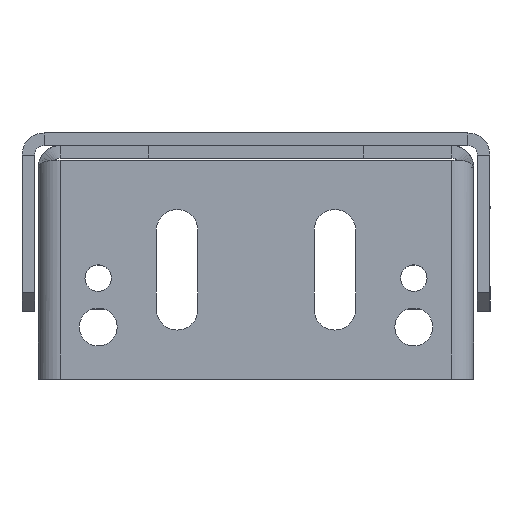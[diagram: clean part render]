
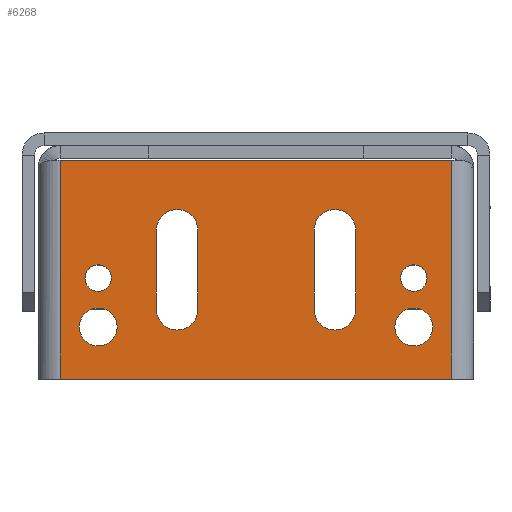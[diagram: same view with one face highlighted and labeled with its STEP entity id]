
A CAD part, left-side view. The second image highlights one B-rep face of the part: STEP entity #6268.
In plain terms, the highlighted planar face has unit normal (-1, 0, 0) as drawn and (0, 0, 1) by its records, which use the part's own axes.
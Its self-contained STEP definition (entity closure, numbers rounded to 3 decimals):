
#6268=ADVANCED_FACE('',(#12166,#12168,#12170,#12172,#12174,#12176,#12178),#12180,
.F.);
#12166=FACE_BOUND('',#12167,.T.);
#12167=EDGE_LOOP('',(#16509,#16510,#16511,#16512));
#12168=FACE_BOUND('',#12169,.T.);
#12169=EDGE_LOOP('',(#16513,#16514,#16515,#16516));
#12170=FACE_BOUND('',#12171,.T.);
#12171=EDGE_LOOP('',(#16517,#16518,#16519,#16520));
#12172=FACE_BOUND('',#12173,.T.);
#12173=EDGE_LOOP('',(#16521));
#12174=FACE_BOUND('',#12175,.T.);
#12175=EDGE_LOOP('',(#16522));
#12176=FACE_BOUND('',#12177,.T.);
#12177=EDGE_LOOP('',(#16523));
#12178=FACE_BOUND('',#12179,.T.);
#12179=EDGE_LOOP('',(#16524));
#12180=PLANE('',#12181);
#12181=AXIS2_PLACEMENT_3D('',#12182,#12183,#12184);
#12182=CARTESIAN_POINT('',(18.5,34.5,0.));
#12183=DIRECTION('',(0.,0.,-1.));
#12184=DIRECTION('',(-1.,0.,0.));
#16509=ORIENTED_EDGE('',*,*,#18601,.F.);
#16510=ORIENTED_EDGE('',*,*,#18602,.T.);
#16511=ORIENTED_EDGE('',*,*,#18603,.T.);
#16512=ORIENTED_EDGE('',*,*,#18604,.F.);
#16513=ORIENTED_EDGE('',*,*,#18605,.F.);
#16514=ORIENTED_EDGE('',*,*,#18606,.F.);
#16515=ORIENTED_EDGE('',*,*,#18607,.F.);
#16516=ORIENTED_EDGE('',*,*,#18506,.F.);
#16517=ORIENTED_EDGE('',*,*,#18608,.F.);
#16518=ORIENTED_EDGE('',*,*,#18609,.F.);
#16519=ORIENTED_EDGE('',*,*,#18610,.F.);
#16520=ORIENTED_EDGE('',*,*,#18510,.F.);
#16521=ORIENTED_EDGE('',*,*,#18545,.F.);
#16522=ORIENTED_EDGE('',*,*,#18547,.F.);
#16523=ORIENTED_EDGE('',*,*,#18549,.F.);
#16524=ORIENTED_EDGE('',*,*,#18551,.F.);
#18506=EDGE_CURVE('',#21754,#21756,#21757,.T.);
#18510=EDGE_CURVE('',#21762,#21764,#21765,.T.);
#18545=EDGE_CURVE('',#21829,#21829,#21830,.T.);
#18547=EDGE_CURVE('',#21833,#21833,#21834,.T.);
#18549=EDGE_CURVE('',#21837,#21837,#21838,.T.);
#18551=EDGE_CURVE('',#21841,#21841,#21842,.T.);
#18601=EDGE_CURVE('',#21931,#21932,#21933,.T.);
#18602=EDGE_CURVE('',#21931,#21934,#21935,.T.);
#18603=EDGE_CURVE('',#21934,#21936,#21937,.T.);
#18604=EDGE_CURVE('',#21932,#21936,#21938,.T.);
#18605=EDGE_CURVE('',#21939,#21754,#21940,.T.);
#18606=EDGE_CURVE('',#21941,#21939,#21942,.T.);
#18607=EDGE_CURVE('',#21756,#21941,#21943,.T.);
#18608=EDGE_CURVE('',#21944,#21762,#21945,.T.);
#18609=EDGE_CURVE('',#21946,#21944,#21947,.T.);
#18610=EDGE_CURVE('',#21764,#21946,#21948,.T.);
#21754=VERTEX_POINT('',#29466);
#21756=VERTEX_POINT('',#29470);
#21757=CIRCLE('',#29471,3.3);
#21762=VERTEX_POINT('',#29484);
#21764=VERTEX_POINT('',#29488);
#21765=CIRCLE('',#29489,3.3);
#21829=VERTEX_POINT('',#29653);
#21830=CIRCLE('',#29654,2.1);
#21833=VERTEX_POINT('',#29663);
#21834=CIRCLE('',#29664,3.);
#21837=VERTEX_POINT('',#29673);
#21838=CIRCLE('',#29674,2.1);
#21841=VERTEX_POINT('',#29683);
#21842=CIRCLE('',#29684,3.);
#21931=VERTEX_POINT('',#29877);
#21932=VERTEX_POINT('',#29878);
#21933=LINE('',#29879,#29880);
#21934=VERTEX_POINT('',#29882);
#21935=LINE('',#29883,#29884);
#21936=VERTEX_POINT('',#29886);
#21937=LINE('',#29887,#29888);
#21938=LINE('',#29890,#29891);
#21939=VERTEX_POINT('',#29893);
#21940=LINE('',#29894,#29895);
#21941=VERTEX_POINT('',#29897);
#21942=CIRCLE('',#29898,3.3);
#21943=LINE('',#29902,#29903);
#21944=VERTEX_POINT('',#29905);
#21945=LINE('',#29906,#29907);
#21946=VERTEX_POINT('',#29909);
#21947=CIRCLE('',#29910,3.3);
#21948=LINE('',#29914,#29915);
#29466=CARTESIAN_POINT('',(5.073,-15.8,0.));
#29470=CARTESIAN_POINT('',(5.073,-9.2,0.));
#29471=AXIS2_PLACEMENT_3D('',#29472,#29473,#29474);
#29472=CARTESIAN_POINT('',(5.073,-12.5,0.));
#29473=DIRECTION('',(0.,0.,1.));
#29474=DIRECTION('',(0.,-1.,0.));
#29484=CARTESIAN_POINT('',(5.073,9.2,0.));
#29488=CARTESIAN_POINT('',(5.073,15.8,0.));
#29489=AXIS2_PLACEMENT_3D('',#29490,#29491,#29492);
#29490=CARTESIAN_POINT('',(5.073,12.5,0.));
#29491=DIRECTION('',(0.,0.,1.));
#29492=DIRECTION('',(0.,-1.,0.));
#29653=CARTESIAN_POINT('',(-0.4,-25.,0.));
#29654=AXIS2_PLACEMENT_3D('',#29655,#29656,#29657);
#29655=CARTESIAN_POINT('',(-2.5,-25.,0.));
#29656=DIRECTION('',(0.,0.,1.));
#29657=DIRECTION('',(-1.,0.,0.));
#29663=CARTESIAN_POINT('',(-7.25,-25.,0.));
#29664=AXIS2_PLACEMENT_3D('',#29665,#29666,#29667);
#29665=CARTESIAN_POINT('',(-10.25,-25.,0.));
#29666=DIRECTION('',(0.,0.,1.));
#29667=DIRECTION('',(-1.,0.,0.));
#29673=CARTESIAN_POINT('',(-0.4,25.,0.));
#29674=AXIS2_PLACEMENT_3D('',#29675,#29676,#29677);
#29675=CARTESIAN_POINT('',(-2.5,25.,0.));
#29676=DIRECTION('',(0.,0.,1.));
#29677=DIRECTION('',(-1.,0.,0.));
#29683=CARTESIAN_POINT('',(-7.25,25.,0.));
#29684=AXIS2_PLACEMENT_3D('',#29685,#29686,#29687);
#29685=CARTESIAN_POINT('',(-10.25,25.,0.));
#29686=DIRECTION('',(0.,0.,1.));
#29687=DIRECTION('',(-1.,0.,0.));
#29877=CARTESIAN_POINT('',(16.146,31.,0.));
#29878=CARTESIAN_POINT('',(16.146,-31.,0.));
#29879=CARTESIAN_POINT('',(16.146,31.,0.));
#29880=VECTOR('',#29881,1.);
#29881=DIRECTION('',(0.,-1.,0.));
#29882=CARTESIAN_POINT('',(-18.5,31.,0.));
#29883=CARTESIAN_POINT('',(16.146,31.,0.));
#29884=VECTOR('',#29885,1.);
#29885=DIRECTION('',(-1.,0.,0.));
#29886=CARTESIAN_POINT('',(-18.5,-31.,0.));
#29887=CARTESIAN_POINT('',(-18.5,31.,0.));
#29888=VECTOR('',#29889,1.);
#29889=DIRECTION('',(0.,-1.,0.));
#29890=CARTESIAN_POINT('',(16.146,-31.,0.));
#29891=VECTOR('',#29892,1.);
#29892=DIRECTION('',(-1.,0.,0.));
#29893=CARTESIAN_POINT('',(-7.427,-15.8,0.));
#29894=CARTESIAN_POINT('',(-7.427,-15.8,0.));
#29895=VECTOR('',#29896,1.);
#29896=DIRECTION('',(1.,0.,0.));
#29897=CARTESIAN_POINT('',(-7.427,-9.2,0.));
#29898=AXIS2_PLACEMENT_3D('',#29899,#29900,#29901);
#29899=CARTESIAN_POINT('',(-7.427,-12.5,0.));
#29900=DIRECTION('',(0.,0.,1.));
#29901=DIRECTION('',(0.,1.,0.));
#29902=CARTESIAN_POINT('',(5.073,-9.2,0.));
#29903=VECTOR('',#29904,1.);
#29904=DIRECTION('',(-1.,0.,0.));
#29905=CARTESIAN_POINT('',(-7.427,9.2,0.));
#29906=CARTESIAN_POINT('',(-7.427,9.2,0.));
#29907=VECTOR('',#29908,1.);
#29908=DIRECTION('',(1.,0.,0.));
#29909=CARTESIAN_POINT('',(-7.427,15.8,0.));
#29910=AXIS2_PLACEMENT_3D('',#29911,#29912,#29913);
#29911=CARTESIAN_POINT('',(-7.427,12.5,0.));
#29912=DIRECTION('',(0.,0.,1.));
#29913=DIRECTION('',(0.,1.,0.));
#29914=CARTESIAN_POINT('',(5.073,15.8,0.));
#29915=VECTOR('',#29916,1.);
#29916=DIRECTION('',(-1.,0.,0.));
